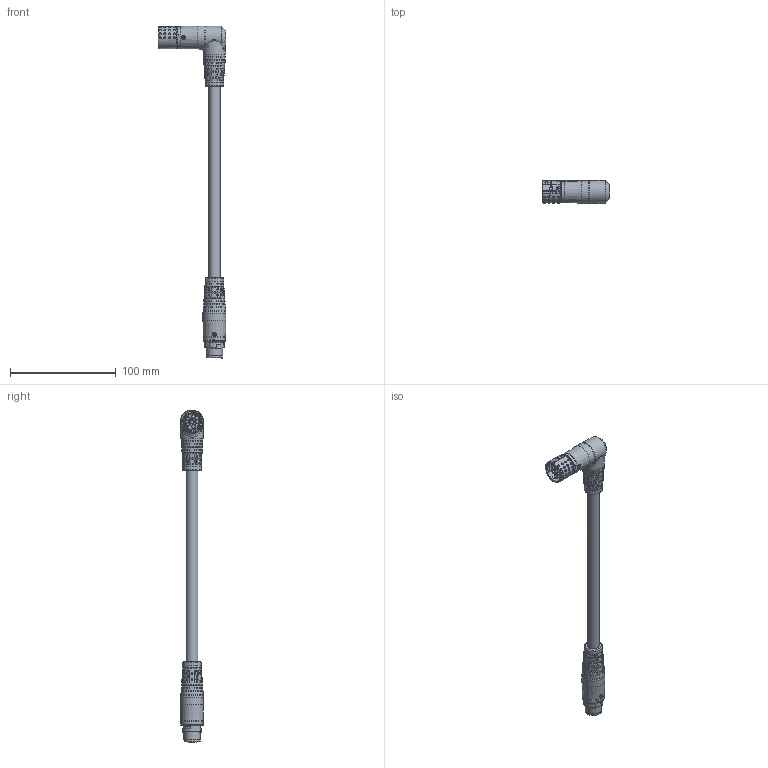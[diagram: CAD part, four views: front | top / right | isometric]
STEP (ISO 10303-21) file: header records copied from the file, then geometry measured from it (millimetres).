
FILE_DESCRIPTION (( 'STEP AP203' ), '1' );
FILE_NAME ('1135501_W-TEC_15K_STI_BU-90°L_STEP.STEP', '2023-09-05T10:48:20', ( '' ), ( '' ), 'SwSTEP 2.0', 'SolidWorks 2021', '' );
FILE_SCHEMA (( 'CONFIG_CONTROL_DESIGN' ));
Length unit declared in the file: millimetre
Products named in the file (1): 1135501_W-TEC_15K_STI_BU-90袂_STEP
Bounding box: 64.16 x 21.87 x 314.34 mm (x, y, z)
Surface area: 23363.8 mm2 (no closed solid volume)
Topology: 0 solids, 28 shells, 904 faces, 3660 edges, 2576 vertices
Faces by surface type: bspline 386, plane 225, cylinder 219, cone 52, torus 20, sphere 2
Full cylindrical faces by diameter (mm): 1.6 x3, 3.3 x6, 4 x2, 4.2 x3, 4.4 x3, 11.1 x1, 15.2 x1, 15.4 x1, 17.384 x1, 17.397 x1, 18.304 x1, 18.4 x1, 21.038 x1, 21.24 x1, 21.72 x2
Entity records: 62454 total; most frequent: CARTESIAN_POINT 38670, ORIENTED_EDGE 5253, EDGE_CURVE 3469, DIRECTION 3356, VERTEX_POINT 2527, B_SPLINE_CURVE_WITH_KNOTS 1695, AXIS2_PLACEMENT_3D 1217, EDGE_LOOP 1080
